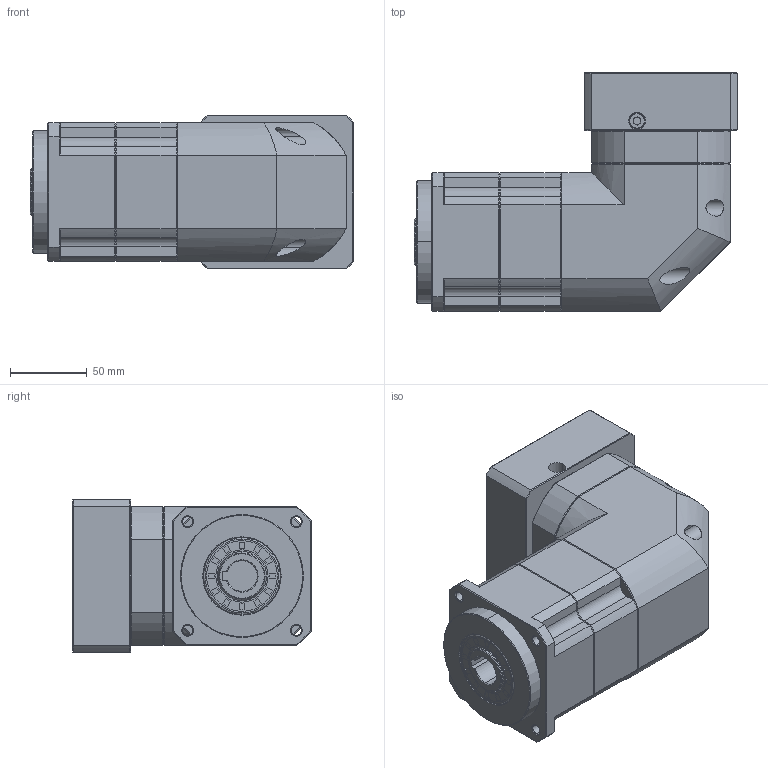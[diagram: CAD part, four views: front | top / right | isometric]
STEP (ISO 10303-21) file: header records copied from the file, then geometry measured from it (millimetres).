
FILE_DESCRIPTION (( 'STEP AP214' ), '1' );
FILE_NAME ('ZPBR090-K20-L2-P1-19-95-115-M8.step', '2024-06-07T18:41:10', ( 'Windows 蚚誧' ), ( 'Organization' ), 'SwSTEP 2.0', 'SolidWorks 2016', '' );
FILE_SCHEMA (( 'AUTOMOTIVE_DESIGN' ));
Length unit declared in the file: millimetre
Products named in the file (1): ZPBR090-K20-L2-P1-19-95-115-M8
Bounding box: 210.5 x 155 x 100 mm (x, y, z)
Surface area: 145216.7 mm2 (no closed solid volume)
Topology: 0 solids, 32 shells, 1867 faces, 4917 edges, 3138 vertices
Faces by surface type: plane 1002, bspline 368, cone 258, cylinder 224, torus 15
Entity records: 85364 total; most frequent: CARTESIAN_POINT 38448, ORIENTED_EDGE 9814, DIRECTION 7685, EDGE_CURVE 4917, LINE 3283, VECTOR 3283, VERTEX_POINT 3138, AXIS2_PLACEMENT_3D 2201
